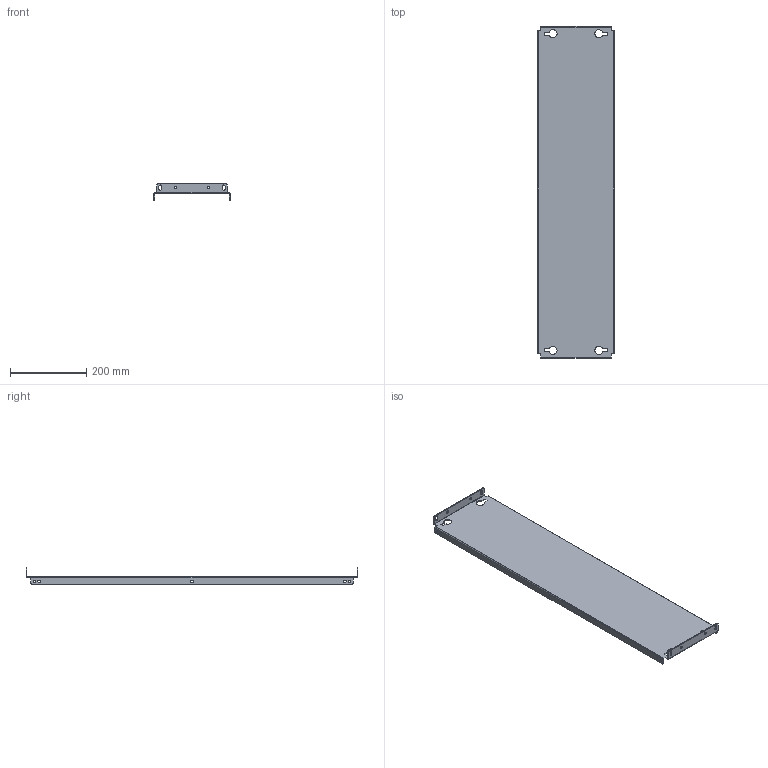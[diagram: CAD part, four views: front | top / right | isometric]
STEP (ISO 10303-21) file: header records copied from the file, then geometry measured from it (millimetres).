
FILE_DESCRIPTION (( 'STEP AP203' ), '1' );
FILE_NAME ('R5PPS9003.STEP', '2021-12-20T06:30:20', ( '' ), ( '' ), 'SwSTEP 2.0', 'SolidWorks 2020', '' );
FILE_SCHEMA (( 'CONFIG_CONTROL_DESIGN' ));
Length unit declared in the file: millimetre
Products named in the file (1): R5PPS9003
Bounding box: 200 x 869 x 43 mm (x, y, z)
Volume: 413760.5 mm3; surface area: 419951.4 mm2
Topology: 1 solids, 1 shells, 136 faces, 370 edges, 236 vertices
Faces by surface type: cylinder 78, plane 58
Entity records: 4479 total; most frequent: DIRECTION 800, CARTESIAN_POINT 743, ORIENTED_EDGE 740, EDGE_CURVE 370, AXIS2_PLACEMENT_3D 293, VERTEX_POINT 236, LINE 214, VECTOR 214
